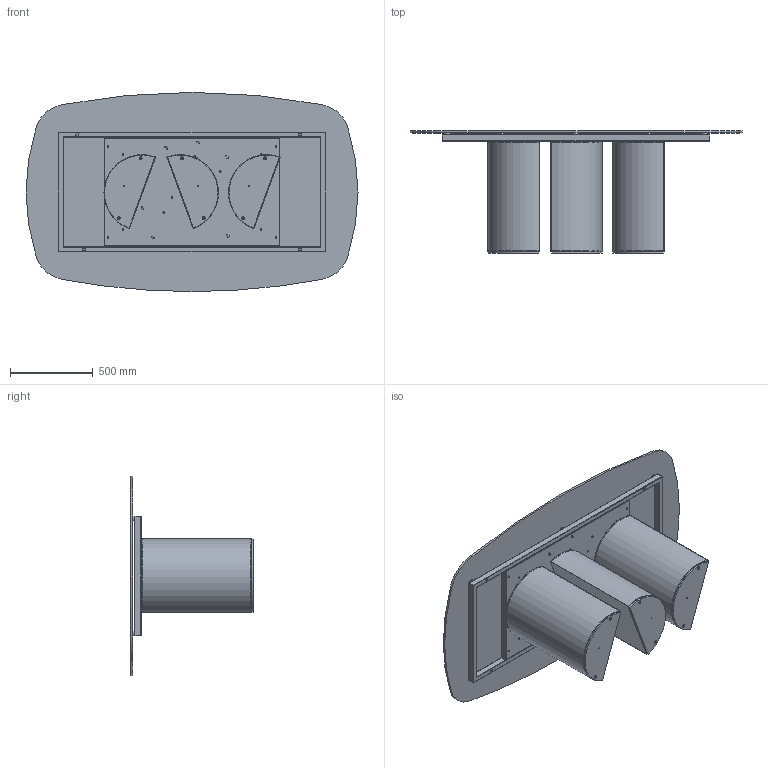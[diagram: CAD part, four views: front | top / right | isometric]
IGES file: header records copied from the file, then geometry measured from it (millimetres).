
Start section: SolidWorks IGES file using analytic representation for surfaces
Global section: file name: Y:\eforma\TECNICO\SOLIDWORKS\E-FORMA\1-TAVOLI\PLAI\02 parts\PL41G.IGS; native system: SolidWorks 2022; preprocessor: SolidWorks 2022; author: eforma.tech; date: 240807.155408; units: millimetre
Bounding box: 2000 x 736 x 1200 mm (x, y, z)
Volume: 38786020.6 mm3; surface area: 13050147.1 mm2
Topology: 48 solids, 48 shells, 1117 faces, 2501 edges, 1462 vertices
Faces by surface type: revolution 650, plane 467
